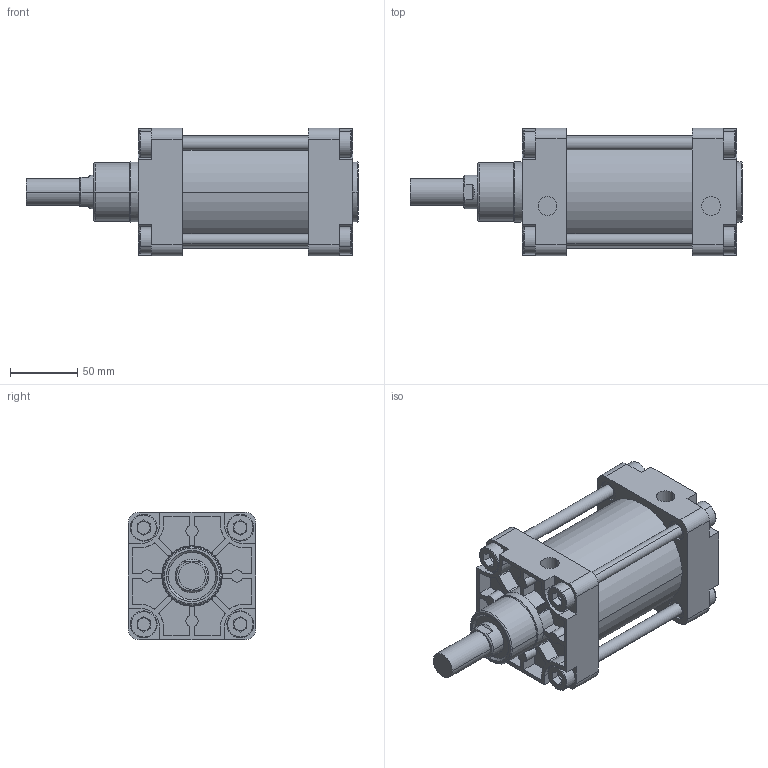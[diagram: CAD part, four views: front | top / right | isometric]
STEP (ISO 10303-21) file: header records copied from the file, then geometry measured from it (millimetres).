
FILE_DESCRIPTION(('CATIA V5 STEP Exchange'),'2;1');
FILE_NAME('D:\stp file for catalog\PNC\80\PNC 80-25-25.stp','2015-10-13T07:43:54+00:00',('none'),('none'),'Version 5-6 Release 2012','CATIA V5 STEP AP203','none');
FILE_SCHEMA(('CONFIG_CONTROL_DESIGN'));
Length unit declared in the file: millimetre
Products named in the file (1): PNC 80-25-25-00
Assembly tree (2 placements, depth 2):
  PNC 80-25-25-00
    #58
    #14781
Bounding box: 247.5 x 95 x 95 mm (x, y, z)
Volume: 969892.6 mm3; surface area: 216572.7 mm2
Topology: 6 solids, 6 shells, 560 faces, 1404 edges, 916 vertices
Faces by surface type: plane 328, cylinder 184, torus 28, extrusion 16, cone 4
Entity records: 15305 total; most frequent: CARTESIAN_POINT 3040, ORIENTED_EDGE 2808, DIRECTION 1892, EDGE_CURVE 1404, VERTEX_POINT 916, VECTOR 898, LINE 882, AXIS2_PLACEMENT_3D 722
